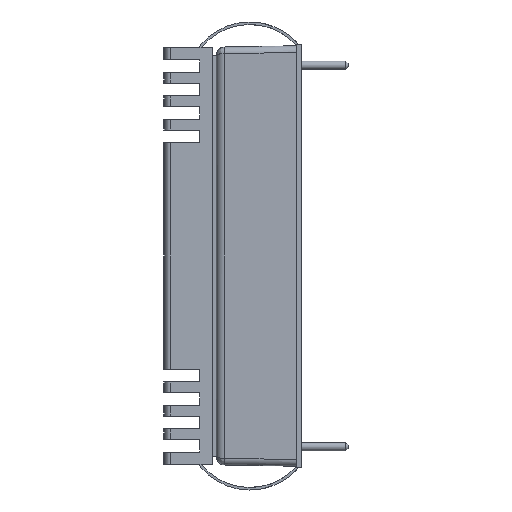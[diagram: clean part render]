
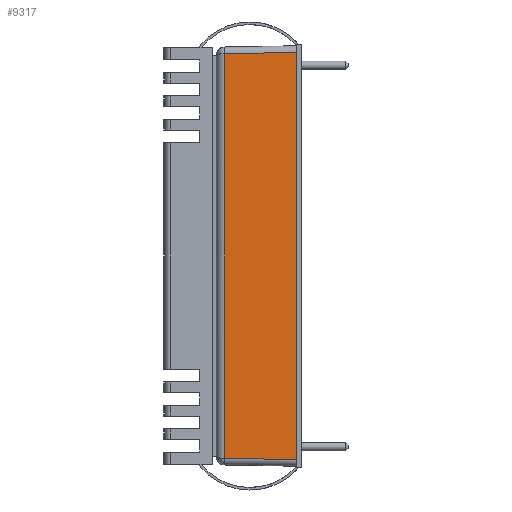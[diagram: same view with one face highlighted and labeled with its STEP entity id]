
A CAD part, left-side view. The second image highlights one B-rep face of the part: STEP entity #9317.
In plain terms, the highlighted planar face has unit normal (-1, 0.018, 0).
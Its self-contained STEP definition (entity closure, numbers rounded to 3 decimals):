
#496 = EDGE_CURVE ( 'NONE', #19523, #19913, #7641, .T. ) ;
#2179 = ORIENTED_EDGE ( 'NONE', *, *, #17789, .T. ) ;
#2185 = CARTESIAN_POINT ( 'NONE',  ( -20.1, 0.6, 25.4 ) ) ;
#2399 = CARTESIAN_POINT ( 'NONE',  ( -20.1, 0.6, 24.4 ) ) ;
#2701 = DIRECTION ( 'NONE',  ( -0.017, -1., -0.017 ) ) ;
#3152 = LINE ( 'NONE', #6761, #17804 ) ;
#3299 = VECTOR ( 'NONE', #2701, 1000. ) ;
#4290 = DIRECTION ( 'NONE',  ( -1., 0.017, 0. ) ) ;
#6719 = EDGE_CURVE ( 'NONE', #7020, #19523, #3152, .T. ) ;
#6761 = CARTESIAN_POINT ( 'NONE',  ( -20.1, 0.6, 24.4 ) ) ;
#7020 = VERTEX_POINT ( 'NONE', #2399 ) ;
#7641 = LINE ( 'NONE', #19927, #17210 ) ;
#9317 = ADVANCED_FACE ( 'NONE', ( #24578 ), #23127, .T. ) ;
#10126 = CARTESIAN_POINT ( 'NONE',  ( -20.1, 0.6, -24.4 ) ) ;
#10597 = EDGE_CURVE ( 'NONE', #7020, #12560, #22646, .T. ) ;
#11073 = LINE ( 'NONE', #14179, #3299 ) ;
#12560 = VERTEX_POINT ( 'NONE', #10126 ) ;
#13630 = DIRECTION ( 'NONE',  ( 0., 0., -1. ) ) ;
#14179 = CARTESIAN_POINT ( 'NONE',  ( -19.95, 9.217, -24.25 ) ) ;
#15096 = ORIENTED_EDGE ( 'NONE', *, *, #496, .T. ) ;
#15706 = CARTESIAN_POINT ( 'NONE',  ( -20.1, 0.6, -25.2 ) ) ;
#16512 = CARTESIAN_POINT ( 'NONE',  ( -19.95, 9.217, 24.25 ) ) ;
#17210 = VECTOR ( 'NONE', #21840, 1000. ) ;
#17579 = VECTOR ( 'NONE', #13630, 1000. ) ;
#17624 = DIRECTION ( 'NONE',  ( -0.017, -1., 0. ) ) ;
#17789 = EDGE_CURVE ( 'NONE', #19913, #12560, #11073, .T. ) ;
#17804 = VECTOR ( 'NONE', #22041, 1000. ) ;
#17893 = CARTESIAN_POINT ( 'NONE',  ( -19.95, 9.217, -24.25 ) ) ;
#18989 = AXIS2_PLACEMENT_3D ( 'NONE', #15706, #4290, #17624 ) ;
#19523 = VERTEX_POINT ( 'NONE', #16512 ) ;
#19913 = VERTEX_POINT ( 'NONE', #17893 ) ;
#19927 = CARTESIAN_POINT ( 'NONE',  ( -19.95, 9.217, -25.2 ) ) ;
#20447 = EDGE_LOOP ( 'NONE', ( #2179, #21947, #24239, #15096 ) ) ;
#21840 = DIRECTION ( 'NONE',  ( 0., 0., -1. ) ) ;
#21947 = ORIENTED_EDGE ( 'NONE', *, *, #10597, .F. ) ;
#22041 = DIRECTION ( 'NONE',  ( 0.017, 1., -0.017 ) ) ;
#22646 = LINE ( 'NONE', #2185, #17579 ) ;
#23127 = PLANE ( 'NONE',  #18989 ) ;
#24239 = ORIENTED_EDGE ( 'NONE', *, *, #6719, .T. ) ;
#24578 = FACE_OUTER_BOUND ( 'NONE', #20447, .T. ) ;
